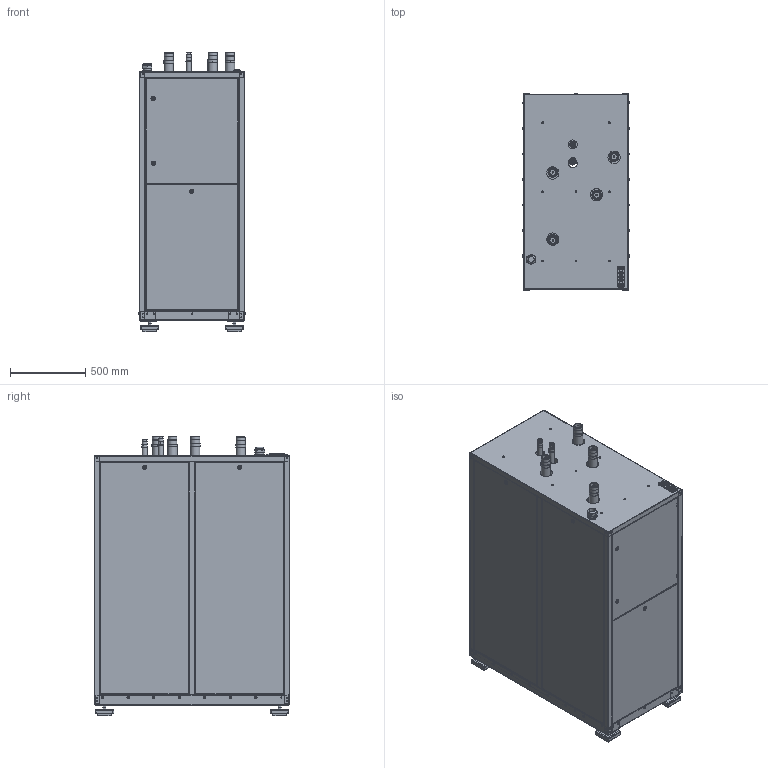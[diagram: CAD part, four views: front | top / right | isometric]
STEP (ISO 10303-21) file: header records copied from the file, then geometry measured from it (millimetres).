
FILE_DESCRIPTION(/* description */ (''),/* implementation_level */ '2;1');
FILE_NAME(/* name */ 'S:\Sami_Timonen_Työt\Zip_paketit_nettisivuille\Taurus_110_EVi_.stp',/* time_stamp */ '2022-04-13T09:27:02+03:00',/* author */ ('sami.timonen'),/* organization */ (''),/* preprocessor_version */ 'ST-DEVELOPER v18.1',/* originating_system */ 'Autodesk Inventor 2020',/* authorisation */ '');
FILE_SCHEMA (('AUTOMOTIVE_DESIGN { 1 0 10303 214 3 1 1 }'));
Products named in the file (1): Taurus_110_EVi_2021_Shrinkwrap
Bounding box: 712 x 1304 x 1861 mm (x, y, z)
Volume: 22014937.9 mm3; surface area: 21389326.6 mm2
Topology: 17 solids, 17 shells, 3332 faces, 8525 edges, 5387 vertices
Faces by surface type: plane 1885, cylinder 1041, cone 165, bspline 132, torus 93, sphere 16
Full cylindrical faces by diameter (mm): 4 x22, 5 x42, 5.5 x84, 6 x8, 7 x72, 7.9 x4, 8 x60, 9.9 x4, 10 x18, 11.5 x8, 12 x12, 15 x2, 16 x18, 16.4 x8, 17 x2, 18 x8, 18.631 x6, 19.5 x8, 21 x2, 21.3 x2, 21.8 x6, 22 x3, 23 x2, 26.8 x4, 28 x8, 28.5 x3, 30.6 x1, 33.7 x6, 37 x4, 38 x1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
Entity records: 110295 total; most frequent: CARTESIAN_POINT 24447, DIRECTION 17218, ORIENTED_EDGE 17006, EDGE_CURVE 8503, AXIS2_PLACEMENT_3D 6049, VERTEX_POINT 5381, LINE 5120, VECTOR 5120
